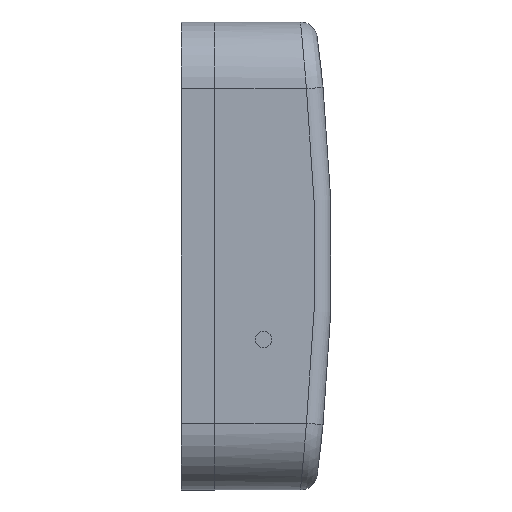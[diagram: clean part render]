
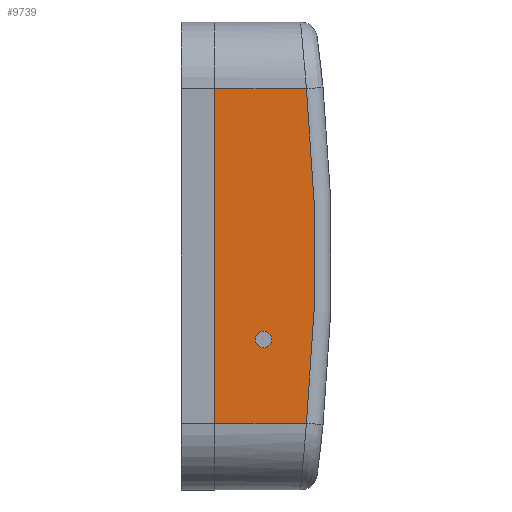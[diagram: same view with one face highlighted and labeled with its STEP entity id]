
A CAD part, left-side view. The second image highlights one B-rep face of the part: STEP entity #9739.
In plain terms, the highlighted planar face has unit normal (-1, 0, 0).
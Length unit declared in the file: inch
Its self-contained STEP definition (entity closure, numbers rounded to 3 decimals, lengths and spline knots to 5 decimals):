
#221 = ORIENTED_EDGE ( 'NONE', *, *, #11070, .T. ) ;
#485 = CARTESIAN_POINT ( 'NONE',  ( -3.25, 0.38414, -0.625 ) ) ;
#555 = AXIS2_PLACEMENT_3D ( 'NONE', #4466, #8981, #989 ) ;
#647 = CARTESIAN_POINT ( 'NONE',  ( -3.25, 0.06427, -1.25 ) ) ;
#666 = DIRECTION ( 'NONE',  ( 0., 0., -1. ) ) ;
#868 = VERTEX_POINT ( 'NONE', #647 ) ;
#975 = EDGE_CURVE ( 'NONE', #8921, #7681, #1838, .T. ) ;
#989 = DIRECTION ( 'NONE',  ( 0., 0., -1. ) ) ;
#1073 = CARTESIAN_POINT ( 'NONE',  ( -3.25, 0.38414, -0.6875 ) ) ;
#1233 = DIRECTION ( 'NONE',  ( 0., 0., 1. ) ) ;
#1619 = CARTESIAN_POINT ( 'NONE',  ( -3.25, 0.75, 1.25 ) ) ;
#1638 = VERTEX_POINT ( 'NONE', #5003 ) ;
#1711 = PLANE ( 'NONE',  #11022 ) ;
#1748 = CIRCLE ( 'NONE', #555, 12.1875 ) ;
#1838 = LINE ( 'NONE', #11287, #13433 ) ;
#1853 = AXIS2_PLACEMENT_3D ( 'NONE', #485, #4855, #10339 ) ;
#1921 = ORIENTED_EDGE ( 'NONE', *, *, #975, .T. ) ;
#1933 = CARTESIAN_POINT ( 'NONE',  ( -3.25, 12.1875, 0. ) ) ;
#2005 = EDGE_CURVE ( 'NONE', #14012, #1638, #7250, .T. ) ;
#2757 = VECTOR ( 'NONE', #6211, 39.37008 ) ;
#3029 = EDGE_LOOP ( 'NONE', ( #7510, #221, #14498, #1921 ) ) ;
#3885 = LINE ( 'NONE', #5221, #12708 ) ;
#4466 = CARTESIAN_POINT ( 'NONE',  ( -3.25, 12.1875, 0. ) ) ;
#4563 = ORIENTED_EDGE ( 'NONE', *, *, #8115, .F. ) ;
#4855 = DIRECTION ( 'NONE',  ( -1., 0., 0. ) ) ;
#5003 = CARTESIAN_POINT ( 'NONE',  ( -3.25, 0.38414, -0.5625 ) ) ;
#5221 = CARTESIAN_POINT ( 'NONE',  ( -3.25, 0.125, -1.25 ) ) ;
#5233 = EDGE_LOOP ( 'NONE', ( #4563, #13444 ) ) ;
#5798 = VERTEX_POINT ( 'NONE', #9885 ) ;
#6211 = DIRECTION ( 'NONE',  ( 0., -1., 0. ) ) ;
#6772 = DIRECTION ( 'NONE',  ( 0., 0., -1. ) ) ;
#6854 = CARTESIAN_POINT ( 'NONE',  ( -3.25, 0.38414, -0.625 ) ) ;
#7250 = CIRCLE ( 'NONE', #7966, 0.0625 ) ;
#7510 = ORIENTED_EDGE ( 'NONE', *, *, #10545, .T. ) ;
#7681 = VERTEX_POINT ( 'NONE', #9033 ) ;
#7966 = AXIS2_PLACEMENT_3D ( 'NONE', #6854, #12335, #1233 ) ;
#7995 = CIRCLE ( 'NONE', #1853, 0.0625 ) ;
#8115 = EDGE_CURVE ( 'NONE', #1638, #14012, #7995, .T. ) ;
#8587 = LINE ( 'NONE', #11853, #2757 ) ;
#8921 = VERTEX_POINT ( 'NONE', #1619 ) ;
#8981 = DIRECTION ( 'NONE',  ( -1., 0., 0. ) ) ;
#9033 = CARTESIAN_POINT ( 'NONE',  ( -3.25, 0.75, -1.25 ) ) ;
#9628 = FACE_BOUND ( 'NONE', #5233, .T. ) ;
#9739 = ADVANCED_FACE ( 'NONE', ( #9628, #9851 ), #1711, .F. ) ;
#9754 = EDGE_CURVE ( 'NONE', #8921, #5798, #8587, .T. ) ;
#9818 = DIRECTION ( 'NONE',  ( 0., -1., 0. ) ) ;
#9851 = FACE_OUTER_BOUND ( 'NONE', #3029, .T. ) ;
#9885 = CARTESIAN_POINT ( 'NONE',  ( -3.25, 0.06427, 1.25 ) ) ;
#10339 = DIRECTION ( 'NONE',  ( 0., 0., 1. ) ) ;
#10545 = EDGE_CURVE ( 'NONE', #7681, #868, #3885, .T. ) ;
#11022 = AXIS2_PLACEMENT_3D ( 'NONE', #1933, #13034, #666 ) ;
#11070 = EDGE_CURVE ( 'NONE', #868, #5798, #1748, .T. ) ;
#11287 = CARTESIAN_POINT ( 'NONE',  ( -3.25, 0.75, 1.25 ) ) ;
#11853 = CARTESIAN_POINT ( 'NONE',  ( -3.25, 0.125, 1.25 ) ) ;
#12335 = DIRECTION ( 'NONE',  ( -1., 0., 0. ) ) ;
#12708 = VECTOR ( 'NONE', #9818, 39.37008 ) ;
#13034 = DIRECTION ( 'NONE',  ( 1., 0., 0. ) ) ;
#13433 = VECTOR ( 'NONE', #6772, 39.37008 ) ;
#13444 = ORIENTED_EDGE ( 'NONE', *, *, #2005, .F. ) ;
#14012 = VERTEX_POINT ( 'NONE', #1073 ) ;
#14498 = ORIENTED_EDGE ( 'NONE', *, *, #9754, .F. ) ;
